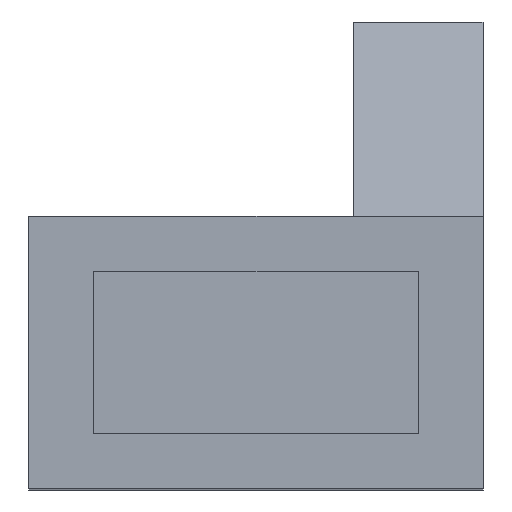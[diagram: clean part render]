
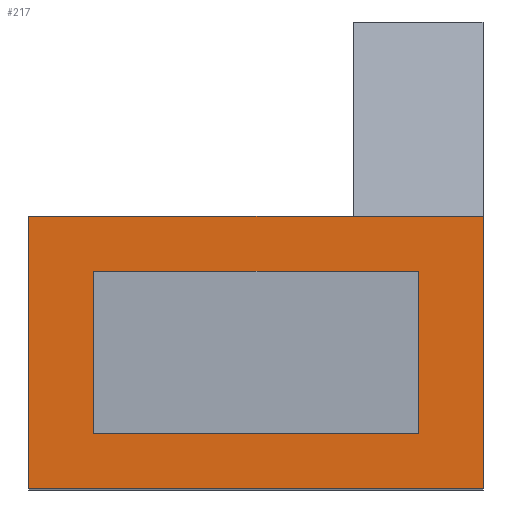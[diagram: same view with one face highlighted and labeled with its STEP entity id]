
A CAD part, top view. The second image highlights one B-rep face of the part: STEP entity #217.
In plain terms, the highlighted planar face has unit normal (0, 0, 1).
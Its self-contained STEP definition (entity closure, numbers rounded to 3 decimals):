
#217 = ADVANCED_FACE ( 'NONE', ( #767, #766 ), #765, .F. ) ;
#218 = EDGE_LOOP ( 'NONE', ( #219, #223, #292, #295 ) ) ;
#219 = ORIENTED_EDGE ( 'NONE', *, *, #220, .F. ) ;
#220 = EDGE_CURVE ( 'NONE', #221, #222, #760, .T. ) ;
#221 = VERTEX_POINT ( 'NONE', #823 ) ;
#222 = VERTEX_POINT ( 'NONE', #822 ) ;
#223 = ORIENTED_EDGE ( 'NONE', *, *, #224, .F. ) ;
#224 = EDGE_CURVE ( 'NONE', #291, #221, #821, .T. ) ;
#275 = EDGE_CURVE ( 'NONE', #276, #304, #923, .T. ) ;
#276 = VERTEX_POINT ( 'NONE', #919 ) ;
#291 = VERTEX_POINT ( 'NONE', #954 ) ;
#292 = ORIENTED_EDGE ( 'NONE', *, *, #293, .F. ) ;
#293 = EDGE_CURVE ( 'NONE', #294, #291, #953, .T. ) ;
#294 = VERTEX_POINT ( 'NONE', #949 ) ;
#295 = ORIENTED_EDGE ( 'NONE', *, *, #296, .F. ) ;
#296 = EDGE_CURVE ( 'NONE', #222, #294, #948, .T. ) ;
#297 = EDGE_LOOP ( 'NONE', ( #298, #302, #305, #384 ) ) ;
#298 = ORIENTED_EDGE ( 'NONE', *, *, #299, .T. ) ;
#299 = EDGE_CURVE ( 'NONE', #300, #301, #944, .T. ) ;
#300 = VERTEX_POINT ( 'NONE', #940 ) ;
#301 = VERTEX_POINT ( 'NONE', #939 ) ;
#302 = ORIENTED_EDGE ( 'NONE', *, *, #303, .F. ) ;
#303 = EDGE_CURVE ( 'NONE', #304, #301, #938, .T. ) ;
#304 = VERTEX_POINT ( 'NONE', #934 ) ;
#305 = ORIENTED_EDGE ( 'NONE', *, *, #275, .F. ) ;
#382 = EDGE_CURVE ( 'NONE', #276, #300, #1079, .T. ) ;
#384 = ORIENTED_EDGE ( 'NONE', *, *, #382, .T. ) ;
#759 = CARTESIAN_POINT ( 'NONE',  ( -2.5, -5., 0. ) ) ;
#760 = LINE ( 'NONE', #759, #825 ) ;
#761 = DIRECTION ( 'NONE',  ( -1., 0., 0. ) ) ;
#762 = DIRECTION ( 'NONE',  ( 0., 0., -1. ) ) ;
#763 = CARTESIAN_POINT ( 'NONE',  ( 4.2, 7., 0. ) ) ;
#764 = AXIS2_PLACEMENT_3D ( 'NONE', #763, #762, #761 ) ;
#765 = PLANE ( 'NONE',  #764 ) ;
#766 = FACE_OUTER_BOUND ( 'NONE', #297, .T. ) ;
#767 = FACE_BOUND ( 'NONE', #218, .T. ) ;
#818 = DIRECTION ( 'NONE',  ( 0., -1., 0. ) ) ;
#819 = VECTOR ( 'NONE', #818, 1000. ) ;
#820 = CARTESIAN_POINT ( 'NONE',  ( -2.5, -5., 0. ) ) ;
#821 = LINE ( 'NONE', #820, #819 ) ;
#822 = CARTESIAN_POINT ( 'NONE',  ( 2.5, -5., 0. ) ) ;
#823 = CARTESIAN_POINT ( 'NONE',  ( -2.5, -5., 0. ) ) ;
#824 = DIRECTION ( 'NONE',  ( 1., 0., 0. ) ) ;
#825 = VECTOR ( 'NONE', #824, 1000. ) ;
#919 = CARTESIAN_POINT ( 'NONE',  ( 4.2, 7., 0. ) ) ;
#920 = DIRECTION ( 'NONE',  ( 0., -1., 0. ) ) ;
#921 = VECTOR ( 'NONE', #920, 1000. ) ;
#922 = CARTESIAN_POINT ( 'NONE',  ( 4.2, 7., 0. ) ) ;
#923 = LINE ( 'NONE', #922, #921 ) ;
#934 = CARTESIAN_POINT ( 'NONE',  ( 4.2, -7., 0. ) ) ;
#935 = DIRECTION ( 'NONE',  ( -1., 0., 0. ) ) ;
#936 = VECTOR ( 'NONE', #935, 1000. ) ;
#937 = CARTESIAN_POINT ( 'NONE',  ( 4.2, -7., 0. ) ) ;
#938 = LINE ( 'NONE', #937, #936 ) ;
#939 = CARTESIAN_POINT ( 'NONE',  ( -4.2, -7., 0. ) ) ;
#940 = CARTESIAN_POINT ( 'NONE',  ( -4.2, 7., 0. ) ) ;
#941 = DIRECTION ( 'NONE',  ( 0., -1., 0. ) ) ;
#942 = VECTOR ( 'NONE', #941, 1000. ) ;
#943 = CARTESIAN_POINT ( 'NONE',  ( -4.2, 7., 0. ) ) ;
#944 = LINE ( 'NONE', #943, #942 ) ;
#945 = DIRECTION ( 'NONE',  ( 0., 1., 0. ) ) ;
#946 = VECTOR ( 'NONE', #945, 1000. ) ;
#947 = CARTESIAN_POINT ( 'NONE',  ( 2.5, -5., 0. ) ) ;
#948 = LINE ( 'NONE', #947, #946 ) ;
#949 = CARTESIAN_POINT ( 'NONE',  ( 2.5, 5., 0. ) ) ;
#950 = DIRECTION ( 'NONE',  ( -1., 0., 0. ) ) ;
#951 = VECTOR ( 'NONE', #950, 1000. ) ;
#952 = CARTESIAN_POINT ( 'NONE',  ( -2.5, 5., 0. ) ) ;
#953 = LINE ( 'NONE', #952, #951 ) ;
#954 = CARTESIAN_POINT ( 'NONE',  ( -2.5, 5., 0. ) ) ;
#1076 = DIRECTION ( 'NONE',  ( -1., 0., 0. ) ) ;
#1077 = VECTOR ( 'NONE', #1076, 1000. ) ;
#1078 = CARTESIAN_POINT ( 'NONE',  ( 4.2, 7., 0. ) ) ;
#1079 = LINE ( 'NONE', #1078, #1077 ) ;
